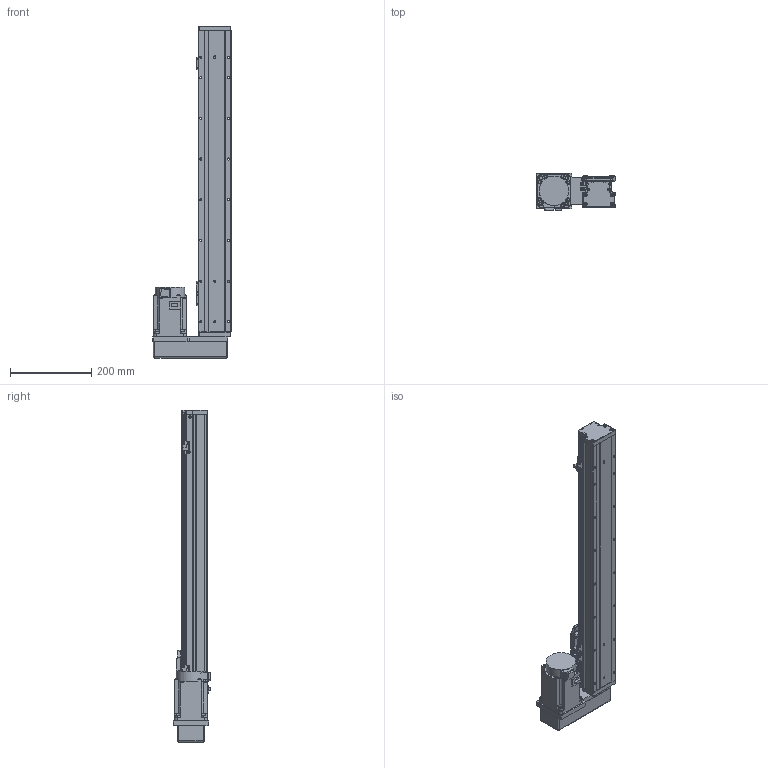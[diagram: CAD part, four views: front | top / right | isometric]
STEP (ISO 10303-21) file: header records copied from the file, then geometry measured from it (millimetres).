
FILE_DESCRIPTION (( 'STEP AP203' ), '1' );
FILE_NAME ('GTH8-550-BL-M75-C4.step', '2023-02-14T02:24:48', ( '微软用户' ), ( '微软中国' ), 'SwSTEP 2.0', 'SolidWorks 2020', '' );
FILE_SCHEMA (( 'CONFIG_CONTROL_DESIGN' ));
Length unit declared in the file: millimetre
Products named in the file (18): GTH80-004; GTH80-028; hg-kn73j_-s100; GTH80-006; GTH50-024; GTH8-550-BL-M75-C4; GTH80-013; GTH50-023; GBT 70.3-M3℅6; GBT96.1-2002 3×0.8; GTH80-022; BTH-M3X5X6; GTH80-001_550; GBT 70.1-M3℅6; CTHA86-015-3_CTHA86-015-4; GTH80-003; GBT 70.1-M4×16; CTHA86-035
Assembly tree (57 placements, depth 2):
  GTH8-550-BL-M75-C4
    GTH80-001_550
    GTH80-003
    GTH80-004
    GTH80-006
    GTH80-013
    GBT 70.3-M3℅6  x4
    GTH80-022
    GBT 70.1-M3℅6  x14
    GBT 70.1-M4×16  x8
    GTH80-028  x2
    GTH50-024  x3
    GTH50-023  x3
    GBT96.1-2002 3×0.8  x6
    BTH-M3X5X6  x8
    CTHA86-015-3_CTHA86-015-4
    CTHA86-035
    hg-kn73j_-s100
Bounding box: 193.5 x 92.3 x 816 mm (x, y, z)
Volume: 4749948.6 mm3; surface area: 489275 mm2
Topology: 59 solids, 59 shells, 2195 faces, 5094 edges, 3120 vertices
Faces by surface type: plane 1153, cylinder 627, cone 243, torus 158, sphere 12, bspline 2
Entity records: 39588 total; most frequent: CARTESIAN_POINT 6647, DIRECTION 6529, ORIENTED_EDGE 5998, EDGE_CURVE 2999, AXIS2_PLACEMENT_3D 2302, VECTOR 1925, LINE 1925, VERTEX_POINT 1895
